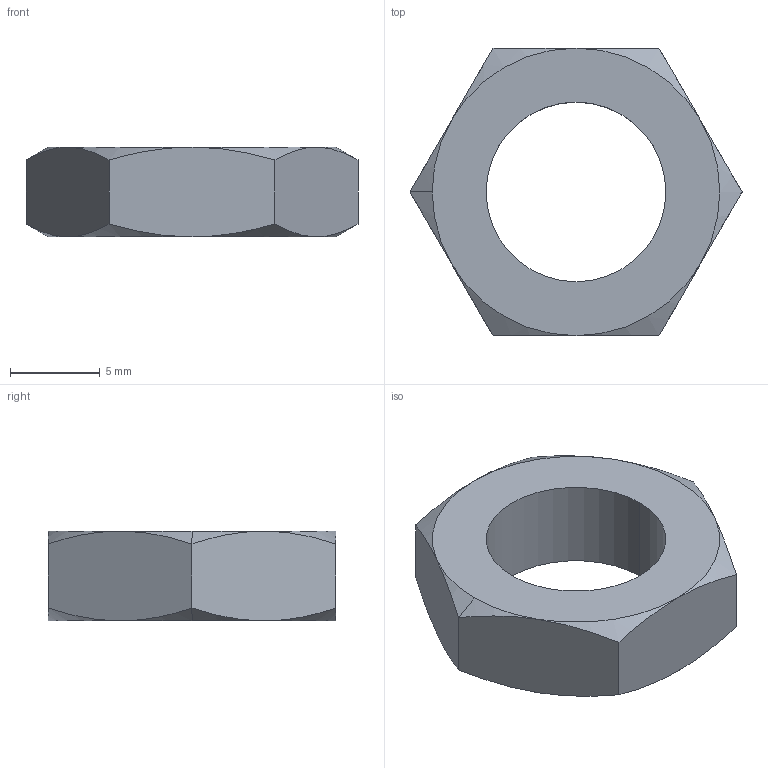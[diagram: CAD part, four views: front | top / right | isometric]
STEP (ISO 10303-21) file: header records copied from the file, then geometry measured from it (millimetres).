
FILE_DESCRIPTION (( 'STEP AP203' ), '1' );
FILE_NAME ('32700.W0515.step', '2011-03-28T12:07:54', ( 'Wixroyd' ), ( 'Wixroyd' ), 'SwSTEP 2.0', 'SolidWorks 2009', '' );
FILE_SCHEMA (( 'CONFIG_CONTROL_DESIGN' ));
Length unit declared in the file: millimetre
Products named in the file (1): 32700.W0515
Bounding box: 18.48 x 16 x 5 mm (x, y, z)
Volume: 706.9 mm3; surface area: 699.7 mm2
Topology: 1 solids, 1 shells, 24 faces, 52 edges, 30 vertices
Faces by surface type: cone 14, plane 8, cylinder 2
Entity records: 811 total; most frequent: CARTESIAN_POINT 243, ORIENTED_EDGE 104, DIRECTION 96, EDGE_CURVE 52, AXIS2_PLACEMENT_3D 43, VERTEX_POINT 30, EDGE_LOOP 26, ADVANCED_FACE 24
